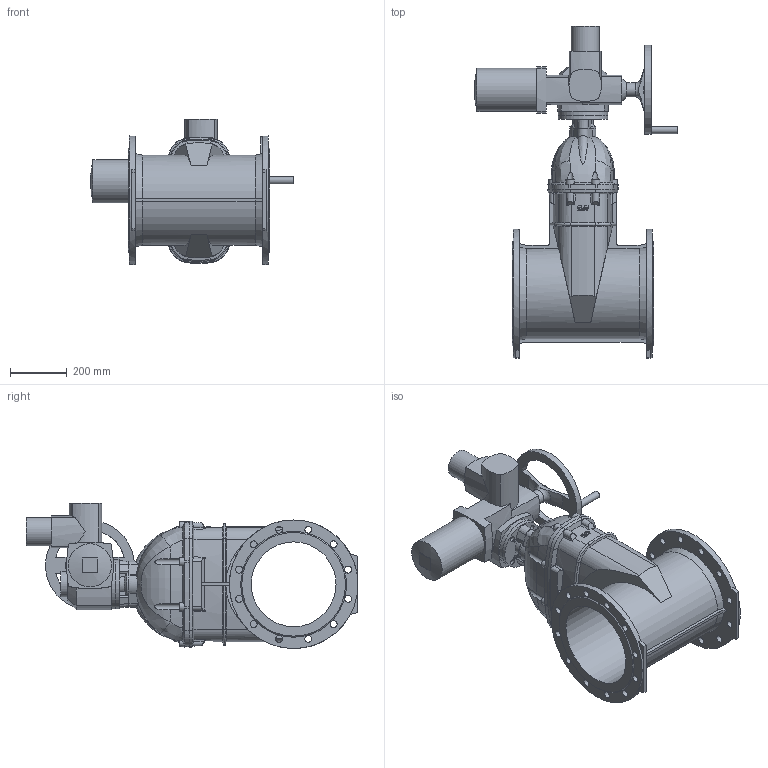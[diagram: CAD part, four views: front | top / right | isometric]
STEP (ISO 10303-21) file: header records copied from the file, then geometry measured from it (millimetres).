
FILE_DESCRIPTION (( 'STEP AP203' ), '1' );
FILE_NAME ('O_15_72_DN300_00_step with AUMA.STEP', '2015-06-11T07:42:48', ( '' ), ( '' ), 'SwSTEP 2.0', 'SolidWorks 2012', '' );
FILE_SCHEMA (( 'CONFIG_CONTROL_DESIGN' ));
Length unit declared in the file: millimetre
Products named in the file (1): O_15_72_DN300_00_step with AUMA
Bounding box: 721 x 1174.5 x 513.5 mm (x, y, z)
Volume: 57158115 mm3; surface area: 2548392.5 mm2
Topology: 1 solids, 1 shells, 464 faces, 1249 edges, 809 vertices
Faces by surface type: cylinder 141, plane 136, cone 105, bspline 64, torus 17, sphere 1
Full cylindrical faces by diameter (mm): 12 x4, 18 x4, 24.5 x24, 25 x1, 50 x1, 56 x1, 90 x1, 100 x1, 153 x1, 175 x2, 249 x1, 300 x1, 315 x1, 455 x2
Entity records: 18608 total; most frequent: CARTESIAN_POINT 8117, ORIENTED_EDGE 2326, DIRECTION 1876, EDGE_CURVE 1163, AXIS2_PLACEMENT_3D 804, VERTEX_POINT 772, EDGE_LOOP 589, FACE_OUTER_BOUND 511
